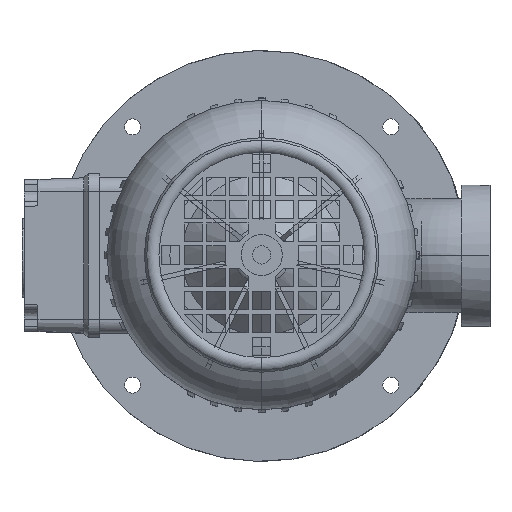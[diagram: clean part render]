
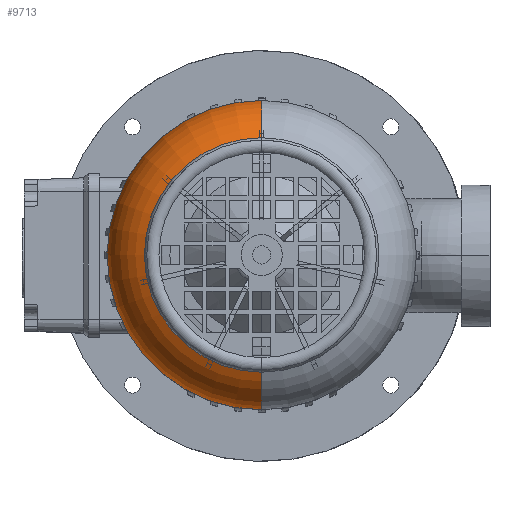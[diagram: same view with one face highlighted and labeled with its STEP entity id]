
A CAD part, top view. The second image highlights one B-rep face of the part: STEP entity #9713.
In plain terms, the highlighted toroidal (fillet/blend) face has major radius 39.75 mm and minor radius 28 mm.
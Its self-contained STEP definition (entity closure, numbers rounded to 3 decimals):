
#5755=VERTEX_POINT('',#15478);
#6325=EDGE_CURVE('',#6761,#12251,#16099,.T.);
#6761=VERTEX_POINT('',#16576);
#6923=EDGE_CURVE('',#5755,#13415,#16747,.T.);
#9713=ADVANCED_FACE('',(#19861),#19862,.T.);
#11123=EDGE_CURVE('',#13415,#6761,#21397,.T.);
#11219=EDGE_CURVE('',#5755,#12251,#21508,.T.);
#12251=VERTEX_POINT('',#22648);
#13415=VERTEX_POINT('',#23925);
#15478=CARTESIAN_POINT('',(0.,-51.372,194.474));
#16099=CIRCLE('',#28306,28.);
#16576=CARTESIAN_POINT('',(0.0,67.75,169.0));
#16747=CIRCLE('',#29497,28.);
#19861=FACE_OUTER_BOUND('',#35531,.T.);
#19862=TOROIDAL_SURFACE('',#35532,39.75,28.);
#21397=CIRCLE('',#38806,67.75);
#21508=CIRCLE('',#38992,51.372);
#22648=CARTESIAN_POINT('',(0.0,51.372,194.474));
#23925=CARTESIAN_POINT('',(0.,-67.75,169.0));
#28306=AXIS2_PLACEMENT_3D('',#47399,#47400,#47401);
#29497=AXIS2_PLACEMENT_3D('',#48045,#48046,#48047);
#35531=EDGE_LOOP('',(#51560,#51561,#51562,#51563));
#35532=AXIS2_PLACEMENT_3D('',#51564,#51565,#51566);
#38806=AXIS2_PLACEMENT_3D('',#53170,#53171,#53172);
#38992=AXIS2_PLACEMENT_3D('',#53318,#53319,#53320);
#47399=CARTESIAN_POINT('',(0.,39.75,169.0));
#47400=DIRECTION('',(1.0,0.,0.0));
#47401=DIRECTION('',(0.,1.0,0.0));
#48045=CARTESIAN_POINT('',(0.,-39.75,169.0));
#48046=DIRECTION('',(1.0,0.,0.0));
#48047=DIRECTION('',(0.,-1.0,-0.0));
#51560=ORIENTED_EDGE('',*,*,#6923,.F.);
#51561=ORIENTED_EDGE('',*,*,#11219,.T.);
#51562=ORIENTED_EDGE('',*,*,#6325,.F.);
#51563=ORIENTED_EDGE('',*,*,#11123,.F.);
#51564=CARTESIAN_POINT('',(0.0,0.0,169.0));
#51565=DIRECTION('',(0.0,0.0,-1.0));
#51566=DIRECTION('',(0.0,-1.0,0.0));
#53170=CARTESIAN_POINT('',(0.0,0.0,169.0));
#53171=DIRECTION('',(0.0,0.0,-1.0));
#53172=DIRECTION('',(0.0,1.0,0.0));
#53318=CARTESIAN_POINT('',(0.0,0.0,194.474));
#53319=DIRECTION('',(0.0,0.0,-1.0));
#53320=DIRECTION('',(0.0,1.0,0.0));
